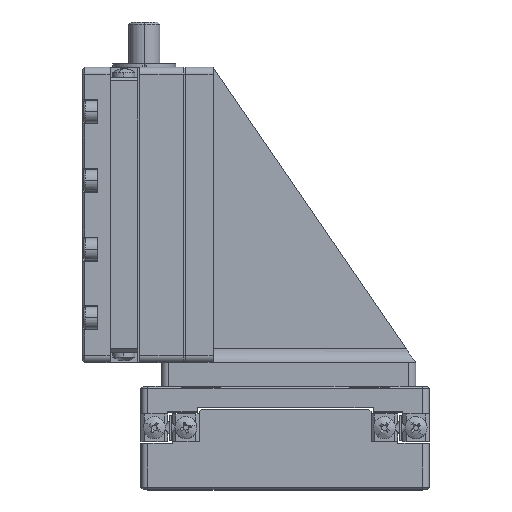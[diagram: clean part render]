
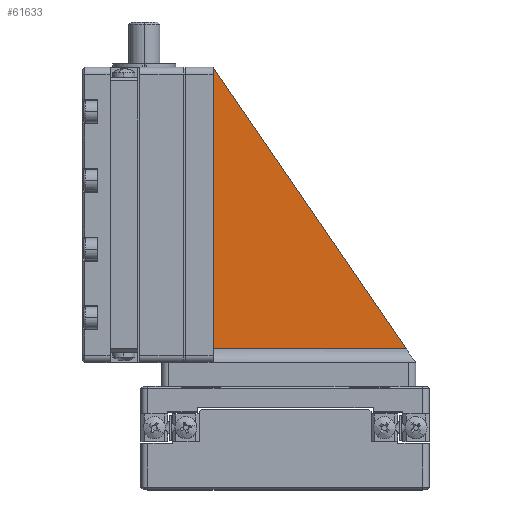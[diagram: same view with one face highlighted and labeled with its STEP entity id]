
A CAD part, top view. The second image highlights one B-rep face of the part: STEP entity #61633.
In plain terms, the highlighted planar face has unit normal (0, 0, 1).
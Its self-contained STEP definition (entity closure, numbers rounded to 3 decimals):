
#121 = EDGE_LOOP ( 'NONE', ( #34103, #24491, #41828 ) ) ;
#1748 = CARTESIAN_POINT ( 'NONE',  ( 10.475, 14.739, 2.5 ) ) ;
#2589 = DIRECTION ( 'NONE',  ( 0., 0., -1. ) ) ;
#8257 = FACE_OUTER_BOUND ( 'NONE', #121, .T. ) ;
#8376 = LINE ( 'NONE', #108766, #20524 ) ;
#8737 = EDGE_CURVE ( 'NONE', #108410, #76706, #111526, .T. ) ;
#20524 = VECTOR ( 'NONE', #109864, 1000. ) ;
#20871 = VECTOR ( 'NONE', #88392, 1000. ) ;
#23042 = EDGE_CURVE ( 'NONE', #76706, #27180, #8376, .T. ) ;
#24491 = ORIENTED_EDGE ( 'NONE', *, *, #24557, .T. ) ;
#24557 = EDGE_CURVE ( 'NONE', #108410, #27180, #105658, .T. ) ;
#27180 = VERTEX_POINT ( 'NONE', #1748 ) ;
#34103 = ORIENTED_EDGE ( 'NONE', *, *, #8737, .F. ) ;
#36081 = CARTESIAN_POINT ( 'NONE',  ( -17.653, 55.739, 2.5 ) ) ;
#41828 = ORIENTED_EDGE ( 'NONE', *, *, #23042, .F. ) ;
#51076 = VECTOR ( 'NONE', #102908, 1000. ) ;
#57655 = CARTESIAN_POINT ( 'NONE',  ( -17.653, 55.739, 2.5 ) ) ;
#61633 = ADVANCED_FACE ( 'NONE', ( #8257 ), #97824, .F. ) ;
#76706 = VERTEX_POINT ( 'NONE', #36081 ) ;
#88312 = AXIS2_PLACEMENT_3D ( 'NONE', #98578, #2589, #89556 ) ;
#88392 = DIRECTION ( 'NONE',  ( 1., 0., 0. ) ) ;
#89556 = DIRECTION ( 'NONE',  ( -1., 0., 0. ) ) ;
#96631 = CARTESIAN_POINT ( 'NONE',  ( 11.847, 14.739, 2.5 ) ) ;
#97824 = PLANE ( 'NONE',  #88312 ) ;
#98578 = CARTESIAN_POINT ( 'NONE',  ( -6.653, 9.239, 2.5 ) ) ;
#102908 = DIRECTION ( 'NONE',  ( 0., 1., 0. ) ) ;
#105658 = LINE ( 'NONE', #96631, #20871 ) ;
#106749 = CARTESIAN_POINT ( 'NONE',  ( -17.653, 14.739, 2.5 ) ) ;
#108410 = VERTEX_POINT ( 'NONE', #106749 ) ;
#108766 = CARTESIAN_POINT ( 'NONE',  ( 11.847, 12.739, 2.5 ) ) ;
#109864 = DIRECTION ( 'NONE',  ( 0.566, -0.825, 0. ) ) ;
#111526 = LINE ( 'NONE', #57655, #51076 ) ;
